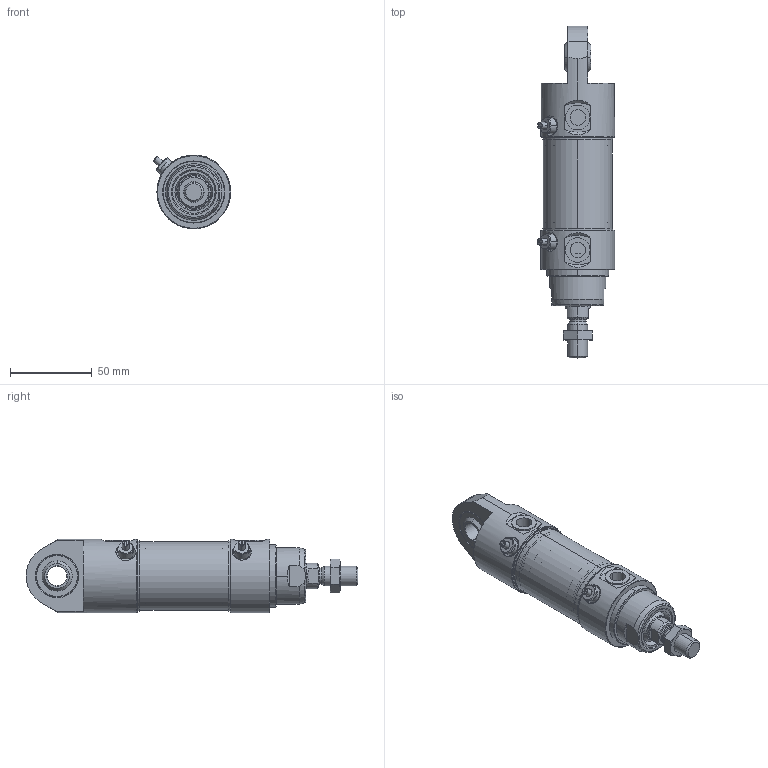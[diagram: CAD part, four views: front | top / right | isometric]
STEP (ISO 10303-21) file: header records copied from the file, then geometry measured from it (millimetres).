
FILE_DESCRIPTION(('STEP AP203'),'1');
FILE_NAME('86M40F0000 - course 0mm.stp','2022-06-09T07:21:35',(' '),(' '),'Spatial InterOp 3D',' ',' ');
FILE_SCHEMA(('CONFIG_CONTROL_DESIGN'));
Length unit declared in the file: metre
Products named in the file (32): 886136_oa_1; 886134_oa_2; 880233 - 37.82x1.78_oa_4; 885998; 880160 - 7x1; 886135_oa_5; 881795 25.12 x 1.78_oa_6; 881792 - O-Ring 2.5x1.5 NBR; 060073 - BR 16-20-20; 885997; 885996; 881794; 881832 - EU1626 P5500; 886595_oa_0; 078462_oa_7; 881272_oa_8; 881272_oa_9; 881218 - Z8 40 PUR_oa_11; 881218 - Z8 40 PUR_oa_12; 881289_oa_16; 886593S_oa_21; 886548 - Snodo 12-26-DIN ISO 12240; 886593_oa_22; 886594_oa_18; 880233 - 37.82x1.78_oa_19; 880160 - 7x1-0; 886135_oa_23; 041462 - Dado basso M12x1.25 INOX; 990339; 86M40F0000 - course 0mm; 000687_oa_24; 000412_oa_25
Assembly tree (36 placements, depth 5):
  86M40F0000 - course 0mm
    886595_oa_0
      886136_oa_1
        886134_oa_2
        880233 - 37.82x1.78_oa_4
        885998
        880160 - 7x1
        886135_oa_5
        881795 25.12 x 1.78_oa_6
        881792 - O-Ring 2.5x1.5 NBR
        060073 - BR 16-20-20
        885997
        885996
        881794
        881832 - EU1626 P5500
      078462_oa_7
        881272_oa_8
        881272_oa_9
        881218 - Z8 40 PUR_oa_11
        881218 - Z8 40 PUR_oa_12
        881289_oa_16
      886594_oa_18
        886593S_oa_21
          886548 - Snodo 12-26-DIN ISO 12240
          886593_oa_22
        885996
        880233 - 37.82x1.78_oa_19
        881792 - O-Ring 2.5x1.5 NBR
        885997
        880160 - 7x1-0
        886135_oa_23
        885998
      041462 - Dado basso M12x1.25 INOX
      990339  x2
    000687_oa_24
    000412_oa_25
Bounding box: 47.18 x 203 x 45 mm (x, y, z)
Volume: 130348.9 mm3; surface area: 71078 mm2
Topology: 35 solids, 35 shells, 611 faces, 1388 edges, 861 vertices
Faces by surface type: cylinder 207, cone 190, plane 144, torus 58, bspline 8, sphere 4
Entity records: 18016 total; most frequent: CARTESIAN_POINT 3977, DIRECTION 2901, ORIENTED_EDGE 2424, AXIS2_PLACEMENT_3D 1240, EDGE_CURVE 1212, VERTEX_POINT 751, CIRCLE 668, EDGE_LOOP 597
